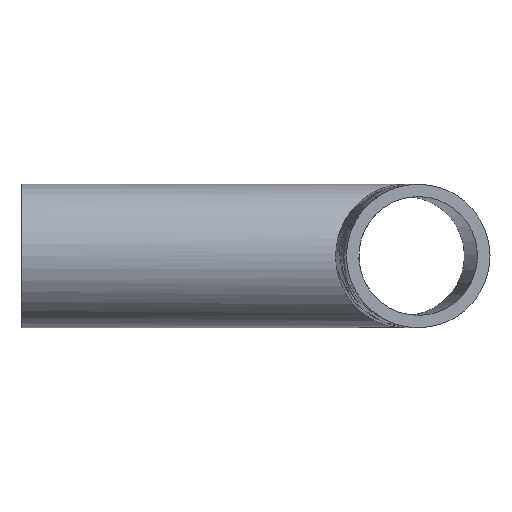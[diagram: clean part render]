
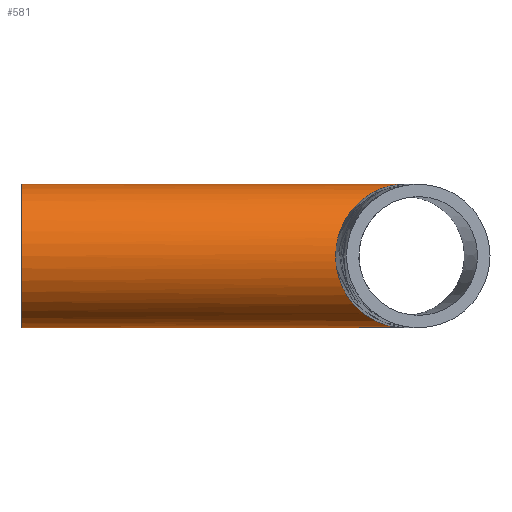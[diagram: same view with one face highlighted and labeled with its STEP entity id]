
A CAD part, left-side view. The second image highlights one B-rep face of the part: STEP entity #581.
In plain terms, the highlighted cylindrical face has radius 9.525 mm (diameter 19.05 mm), a partial arc.
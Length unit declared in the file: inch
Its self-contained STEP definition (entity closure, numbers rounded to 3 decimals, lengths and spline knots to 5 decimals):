
#1 = CARTESIAN_POINT ( 'NONE',  ( -0.30204, 0.2915, -0.22261 ) ) ;
#10 = CARTESIAN_POINT ( 'NONE',  ( -0.30953, 0.29872, -0.21211 ) ) ;
#19 = CARTESIAN_POINT ( 'NONE',  ( 0., 0., 0.375 ) ) ;
#21 = CARTESIAN_POINT ( 'NONE',  ( -0.2615, 0.25237, -0.26984 ) ) ;
#30 = CARTESIAN_POINT ( 'NONE',  ( -0.26038, 0.25129, 0.27014 ) ) ;
#39 = CYLINDRICAL_SURFACE ( 'NONE', #377, 0.375 ) ;
#40 = CARTESIAN_POINT ( 'NONE',  ( -0.20555, 0.19837, 0.31446 ) ) ;
#49 = CARTESIAN_POINT ( 'NONE',  ( -0.34189, 0.32995, 0.15467 ) ) ;
#58 = CARTESIAN_POINT ( 'NONE',  ( -0.01063, 0.01025, 0.375 ) ) ;
#113 = ORIENTED_EDGE ( 'NONE', *, *, #1066, .F. ) ;
#119 = VERTEX_POINT ( 'NONE', #1643 ) ;
#138 = CARTESIAN_POINT ( 'NONE',  ( -0.10585, 0.10216, -0.36041 ) ) ;
#175 = CARTESIAN_POINT ( 'NONE',  ( -0.25156, 0.24278, 0.27835 ) ) ;
#179 = LINE ( 'NONE', #703, #1505 ) ;
#194 = CARTESIAN_POINT ( 'NONE',  ( -0.30945, 0.29864, 0.21332 ) ) ;
#228 = DIRECTION ( 'NONE',  ( 0., 1., 0. ) ) ;
#245 = CARTESIAN_POINT ( 'NONE',  ( -0.33032, 0.31878, -0.17805 ) ) ;
#253 = CARTESIAN_POINT ( 'NONE',  ( -0.35742, 0.34494, -0.11435 ) ) ;
#260 = CARTESIAN_POINT ( 'NONE',  ( -0.37502, 0.36192, -0.00649 ) ) ;
#287 = DIRECTION ( 'NONE',  ( 0., 1., 0. ) ) ;
#344 = CARTESIAN_POINT ( 'NONE',  ( 0., 2., 0. ) ) ;
#360 = ORIENTED_EDGE ( 'NONE', *, *, #869, .T. ) ;
#377 = AXIS2_PLACEMENT_3D ( 'NONE', #1468, #287, #1611 ) ;
#379 = CARTESIAN_POINT ( 'NONE',  ( -0.05313, 0.05128, -0.37137 ) ) ;
#396 = CARTESIAN_POINT ( 'NONE',  ( -0.37397, 0.36091, -0.0287 ) ) ;
#405 = EDGE_CURVE ( 'NONE', #564, #119, #179, .T. ) ;
#423 = CARTESIAN_POINT ( 'NONE',  ( -0.02128, 0.02054, 0.37455 ) ) ;
#440 = DIRECTION ( 'NONE',  ( 0., 0., 1. ) ) ;
#442 = CARTESIAN_POINT ( 'NONE',  ( -0.37056, 0.35762, 0.05935 ) ) ;
#453 = CARTESIAN_POINT ( 'NONE',  ( -0.34739, 0.33526, 0.14191 ) ) ;
#513 = CARTESIAN_POINT ( 'NONE',  ( -0.08478, 0.08182, -0.36592 ) ) ;
#521 = CARTESIAN_POINT ( 'NONE',  ( -0.04255, 0.04106, -0.37273 ) ) ;
#529 = CARTESIAN_POINT ( 'NONE',  ( -0.37333, 0.36029, -0.03615 ) ) ;
#536 = EDGE_CURVE ( 'NONE', #1430, #1152, #673, .T. ) ;
#556 = CARTESIAN_POINT ( 'NONE',  ( -0.36792, 0.35508, 0.07393 ) ) ;
#563 = CARTESIAN_POINT ( 'NONE',  ( -0.04241, 0.04093, 0.37275 ) ) ;
#564 = VERTEX_POINT ( 'NONE', #19 ) ;
#574 = CIRCLE ( 'NONE', #781, 0.375 ) ;
#581 = ADVANCED_FACE ( 'NONE', ( #1256 ), #39, .T. ) ;
#584 = CARTESIAN_POINT ( 'NONE',  ( -0.36114, 0.34853, 0.10204 ) ) ;
#663 = B_SPLINE_CURVE_WITH_KNOTS ( 'NONE', 3,
 ( #1436, #1567, #1683, #521, #379, #513, #138, #1048, #776, #922, #909, #1193, #795, #21, #1576, #1, #10, #1334, #245, #1028, #769, #253, #1018, #1315, #1181, #529, #396, #1442, #260, #787, #1325, #442, #556, #584, #1076, #453, #49, #969, #194, #1213, #681, #30, #175, #690, #40, #823, #698, #1249, #1349, #1358, #1102, #1231, #563, #423, #58, #1498 ),
 .UNSPECIFIED., .F., .F.,
 ( 4, 2, 2, 2, 2, 2, 2, 2, 2, 2, 2, 2, 2, 2, 2, 2, 2, 2, 2, 2, 2, 2, 2, 2, 2, 2, 2, 4 ),
 ( -0.00002, 0.00111, 0.00223, 0.00448, 0.00673, 0.00786, 0.00898, 0.01123, 0.01236, 0.01348, 0.01461, 0.01573, 0.01686, 0.01742, 0.01798, 0.01911, 0.02024, 0.02136, 0.02249, 0.02474, 0.02586, 0.02699, 0.02924, 0.03036, 0.03149, 0.03374, 0.03486, 0.03599 ),
 .UNSPECIFIED. ) ;
#673 = LINE ( 'NONE', #1415, #1139 ) ;
#681 = CARTESIAN_POINT ( 'NONE',  ( -0.27754, 0.26785, 0.25248 ) ) ;
#690 = CARTESIAN_POINT ( 'NONE',  ( -0.22446, 0.21663, 0.30133 ) ) ;
#698 = CARTESIAN_POINT ( 'NONE',  ( -0.16601, 0.16022, 0.33643 ) ) ;
#703 = CARTESIAN_POINT ( 'NONE',  ( 0., -0.44397, 0.375 ) ) ;
#769 = CARTESIAN_POINT ( 'NONE',  ( -0.34779, 0.33565, -0.14094 ) ) ;
#776 = CARTESIAN_POINT ( 'NONE',  ( -0.167, 0.16117, -0.33651 ) ) ;
#781 = AXIS2_PLACEMENT_3D ( 'NONE', #344, #1248, #440 ) ;
#787 = CARTESIAN_POINT ( 'NONE',  ( -0.37496, 0.36187, 0.01561 ) ) ;
#795 = CARTESIAN_POINT ( 'NONE',  ( -0.23422, 0.22604, -0.29311 ) ) ;
#814 = ORIENTED_EDGE ( 'NONE', *, *, #536, .F. ) ;
#823 = CARTESIAN_POINT ( 'NONE',  ( -0.17607, 0.16992, 0.33129 ) ) ;
#869 = EDGE_CURVE ( 'NONE', #1430, #564, #663, .T. ) ;
#909 = CARTESIAN_POINT ( 'NONE',  ( -0.2059, 0.19871, -0.31363 ) ) ;
#922 = CARTESIAN_POINT ( 'NONE',  ( -0.19627, 0.18942, -0.31973 ) ) ;
#969 = CARTESIAN_POINT ( 'NONE',  ( -0.32362, 0.31232, 0.19143 ) ) ;
#1018 = CARTESIAN_POINT ( 'NONE',  ( -0.36156, 0.34893, -0.10055 ) ) ;
#1028 = CARTESIAN_POINT ( 'NONE',  ( -0.34235, 0.33039, -0.15365 ) ) ;
#1048 = CARTESIAN_POINT ( 'NONE',  ( -0.14695, 0.14181, -0.3457 ) ) ;
#1066 = EDGE_CURVE ( 'NONE', #1152, #119, #574, .T. ) ;
#1076 = CARTESIAN_POINT ( 'NONE',  ( -0.35701, 0.34454, 0.11562 ) ) ;
#1102 = CARTESIAN_POINT ( 'NONE',  ( -0.08427, 0.08132, 0.36602 ) ) ;
#1139 = VECTOR ( 'NONE', #228, 39.37008 ) ;
#1152 = VERTEX_POINT ( 'NONE', #1515 ) ;
#1153 = DIRECTION ( 'NONE',  ( 0., 1., 0. ) ) ;
#1181 = CARTESIAN_POINT ( 'NONE',  ( -0.37076, 0.35781, -0.05815 ) ) ;
#1193 = CARTESIAN_POINT ( 'NONE',  ( -0.22485, 0.217, -0.30034 ) ) ;
#1213 = CARTESIAN_POINT ( 'NONE',  ( -0.28585, 0.27586, 0.24306 ) ) ;
#1231 = CARTESIAN_POINT ( 'NONE',  ( -0.05291, 0.05106, 0.3714 ) ) ;
#1248 = DIRECTION ( 'NONE',  ( 0., 1., 0. ) ) ;
#1249 = CARTESIAN_POINT ( 'NONE',  ( -0.1458, 0.14071, 0.34567 ) ) ;
#1256 = FACE_OUTER_BOUND ( 'NONE', #1540, .T. ) ;
#1315 = CARTESIAN_POINT ( 'NONE',  ( -0.36821, 0.35535, -0.07249 ) ) ;
#1325 = CARTESIAN_POINT ( 'NONE',  ( -0.37407, 0.361, 0.03025 ) ) ;
#1334 = CARTESIAN_POINT ( 'NONE',  ( -0.32372, 0.31242, -0.18975 ) ) ;
#1349 = CARTESIAN_POINT ( 'NONE',  ( -0.13563, 0.1309, 0.34978 ) ) ;
#1358 = CARTESIAN_POINT ( 'NONE',  ( -0.10495, 0.10129, 0.36067 ) ) ;
#1415 = CARTESIAN_POINT ( 'NONE',  ( 0., -0.44397, -0.375 ) ) ;
#1430 = VERTEX_POINT ( 'NONE', #1492 ) ;
#1436 = CARTESIAN_POINT ( 'NONE',  ( 0., 0., -0.375 ) ) ;
#1442 = CARTESIAN_POINT ( 'NONE',  ( -0.37482, 0.36173, -0.01388 ) ) ;
#1468 = CARTESIAN_POINT ( 'NONE',  ( 0., -0.44397, 0. ) ) ;
#1481 = ORIENTED_EDGE ( 'NONE', *, *, #405, .T. ) ;
#1492 = CARTESIAN_POINT ( 'NONE',  ( 0., 0., -0.375 ) ) ;
#1498 = CARTESIAN_POINT ( 'NONE',  ( 0., 0., 0.375 ) ) ;
#1505 = VECTOR ( 'NONE', #1153, 39.37008 ) ;
#1515 = CARTESIAN_POINT ( 'NONE',  ( 0., 2., -0.375 ) ) ;
#1540 = EDGE_LOOP ( 'NONE', ( #814, #360, #1481, #113 ) ) ;
#1567 = CARTESIAN_POINT ( 'NONE',  ( -0.01063, 0.01025, -0.375 ) ) ;
#1576 = CARTESIAN_POINT ( 'NONE',  ( -0.27854, 0.26881, -0.25235 ) ) ;
#1611 = DIRECTION ( 'NONE',  ( 0., 0., 1. ) ) ;
#1643 = CARTESIAN_POINT ( 'NONE',  ( 0., 2., 0.375 ) ) ;
#1683 = CARTESIAN_POINT ( 'NONE',  ( -0.02132, 0.02058, -0.37454 ) ) ;
